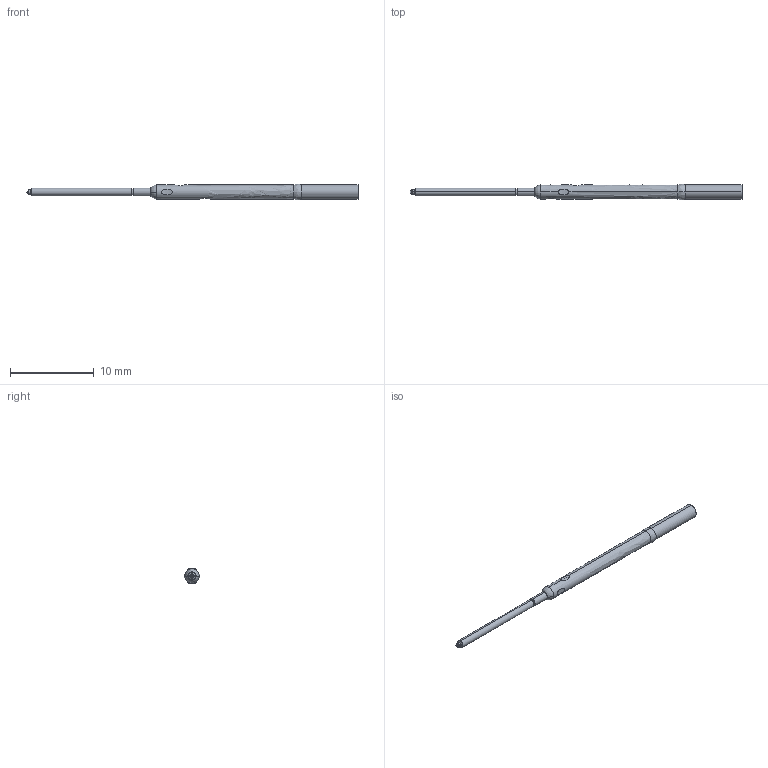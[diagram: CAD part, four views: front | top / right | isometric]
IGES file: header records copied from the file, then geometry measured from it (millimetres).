
Start section: SolidWorks IGES file using analytic representation for surfaces
Global section: file name: Z:\probe solid model mockups\Solidworks models\DER-100\DER-100J Full.IGS; native system: SolidWorks 2006 by SolidWorks Corporation; preprocessor: SolidWorks 2006 by SolidWorks Corporation; author: tsakatani; date: 071218.090354; units: inch
Bounding box: 39.72 x 1.86 x 1.88 mm (x, y, z)
Surface area: 285.1 mm2 (no closed solid volume)
Topology: 0 solids, 0 shells, 38 faces, 385 edges, 380 vertices
Faces by surface type: revolution 31, bspline 7
